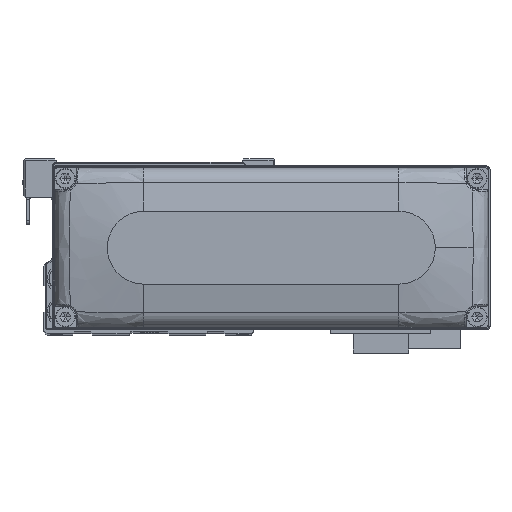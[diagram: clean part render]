
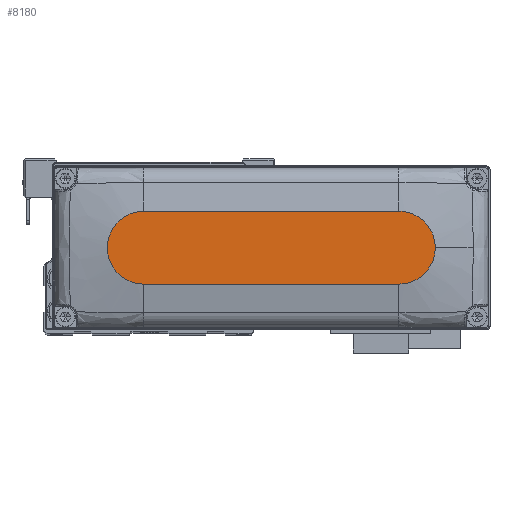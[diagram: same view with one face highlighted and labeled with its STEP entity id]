
A CAD part, top view. The second image highlights one B-rep face of the part: STEP entity #8180.
In plain terms, the highlighted planar face has unit normal (0, 0, 1).
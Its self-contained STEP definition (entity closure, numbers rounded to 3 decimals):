
#2221 = ORIENTED_EDGE ( 'NONE', *, *, #9298, .T. ) ;
#2296 = AXIS2_PLACEMENT_3D ( 'NONE', #3922, #15155, #26392 ) ;
#2328 = AXIS2_PLACEMENT_3D ( 'NONE', #33024, #7801, #19054 ) ;
#2810 = VERTEX_POINT ( 'NONE', #28563 ) ;
#3922 = CARTESIAN_POINT ( 'NONE',  ( 35., 0., 28. ) ) ;
#4220 = EDGE_LOOP ( 'NONE', ( #19916, #25246, #21116, #2221, #26008 ) ) ;
#4428 = DIRECTION ( 'NONE',  ( 0., 0., 1. ) ) ;
#6344 = VERTEX_POINT ( 'NONE', #29040 ) ;
#7404 = AXIS2_PLACEMENT_3D ( 'NONE', #29657, #4428, #15675 ) ;
#7801 = DIRECTION ( 'NONE',  ( 0., 0., 1. ) ) ;
#7821 = LINE ( 'NONE', #19069, #18509 ) ;
#8180 = ADVANCED_FACE ( 'NONE', ( #10568 ), #21808, .T. ) ;
#8193 = AXIS2_PLACEMENT_3D ( 'NONE', #10175, #21426, #32642 ) ;
#8334 = DIRECTION ( 'NONE',  ( 1., 0., 0. ) ) ;
#9298 = EDGE_CURVE ( 'NONE', #2810, #6344, #18198, .T. ) ;
#9398 = EDGE_CURVE ( 'NONE', #16002, #35105, #24087, .T. ) ;
#10175 = CARTESIAN_POINT ( 'NONE',  ( -35., 0., 28. ) ) ;
#10568 = FACE_OUTER_BOUND ( 'NONE', #4220, .T. ) ;
#15155 = DIRECTION ( 'NONE',  ( 0., 0., 1. ) ) ;
#15675 = DIRECTION ( 'NONE',  ( 1., 0., 0. ) ) ;
#15896 = CARTESIAN_POINT ( 'NONE',  ( -35., 10., 28. ) ) ;
#16002 = VERTEX_POINT ( 'NONE', #15896 ) ;
#18198 = CIRCLE ( 'NONE', #2296, 10. ) ;
#18509 = VECTOR ( 'NONE', #30302, 1000. ) ;
#19054 = DIRECTION ( 'NONE',  ( 1., 0., 0. ) ) ;
#19069 = CARTESIAN_POINT ( 'NONE',  ( -35., 10., 28. ) ) ;
#19916 = ORIENTED_EDGE ( 'NONE', *, *, #22399, .T. ) ;
#21116 = ORIENTED_EDGE ( 'NONE', *, *, #32189, .T. ) ;
#21426 = DIRECTION ( 'NONE',  ( 0., 0., 1. ) ) ;
#21720 = CARTESIAN_POINT ( 'NONE',  ( 35., 10., 28. ) ) ;
#21808 = PLANE ( 'NONE',  #2328 ) ;
#22338 = LINE ( 'NONE', #33560, #27739 ) ;
#22399 = EDGE_CURVE ( 'NONE', #33848, #16002, #7821, .T. ) ;
#23300 = CIRCLE ( 'NONE', #7404, 10. ) ;
#24087 = CIRCLE ( 'NONE', #8193, 10. ) ;
#25246 = ORIENTED_EDGE ( 'NONE', *, *, #9398, .T. ) ;
#25281 = EDGE_CURVE ( 'NONE', #6344, #33848, #23300, .T. ) ;
#26008 = ORIENTED_EDGE ( 'NONE', *, *, #25281, .T. ) ;
#26392 = DIRECTION ( 'NONE',  ( 1., 0., 0. ) ) ;
#26511 = CARTESIAN_POINT ( 'NONE',  ( -35., -10., 28. ) ) ;
#27739 = VECTOR ( 'NONE', #8334, 1000. ) ;
#28563 = CARTESIAN_POINT ( 'NONE',  ( 35., -10., 28. ) ) ;
#29040 = CARTESIAN_POINT ( 'NONE',  ( 45., 0., 28. ) ) ;
#29657 = CARTESIAN_POINT ( 'NONE',  ( 35., 0., 28. ) ) ;
#30302 = DIRECTION ( 'NONE',  ( -1., 0., 0. ) ) ;
#32189 = EDGE_CURVE ( 'NONE', #35105, #2810, #22338, .T. ) ;
#32642 = DIRECTION ( 'NONE',  ( 1., 0., 0. ) ) ;
#33024 = CARTESIAN_POINT ( 'NONE',  ( 0., 0., 28. ) ) ;
#33560 = CARTESIAN_POINT ( 'NONE',  ( -35., -10., 28. ) ) ;
#33848 = VERTEX_POINT ( 'NONE', #21720 ) ;
#35105 = VERTEX_POINT ( 'NONE', #26511 ) ;
